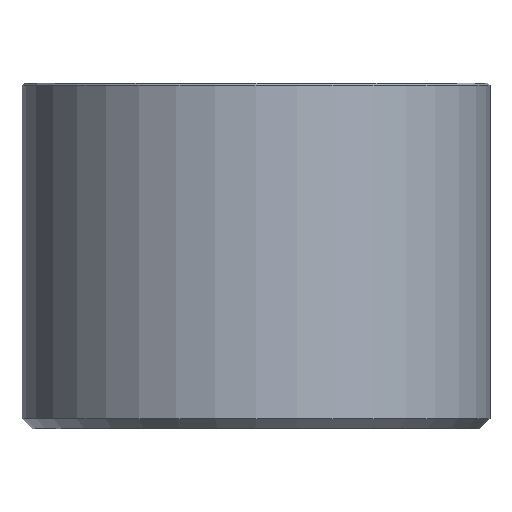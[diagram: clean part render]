
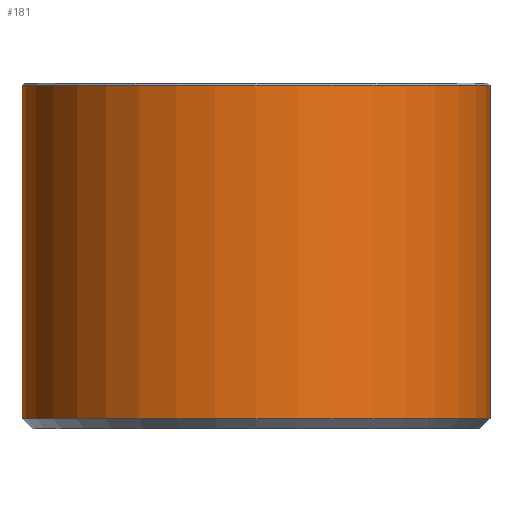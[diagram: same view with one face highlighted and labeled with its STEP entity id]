
A CAD part, front view. The second image highlights one B-rep face of the part: STEP entity #181.
In plain terms, the highlighted cylindrical face has radius 11.5 mm (diameter 23 mm), a full revolution.
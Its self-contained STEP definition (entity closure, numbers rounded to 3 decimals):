
#146=FACE_BOUND('',#292,.T.);
#147=FACE_BOUND('',#293,.T.);
#181=ADVANCED_FACE('',(#146,#147),#229,.T.);
#229=CYLINDRICAL_SURFACE('',#1254,11.5);
#292=EDGE_LOOP('',(#454));
#293=EDGE_LOOP('',(#455));
#454=ORIENTED_EDGE('',*,*,#775,.T.);
#455=ORIENTED_EDGE('',*,*,#776,.T.);
#672=VERTEX_POINT('',#1968);
#673=VERTEX_POINT('',#1970);
#775=EDGE_CURVE('',#672,#672,#1009,.T.);
#776=EDGE_CURVE('',#673,#673,#1010,.T.);
#1009=CIRCLE('',#1252,11.5);
#1010=CIRCLE('',#1253,11.5);
#1252=AXIS2_PLACEMENT_3D('',#1967,#1501,#1502);
#1253=AXIS2_PLACEMENT_3D('',#1969,#1503,#1504);
#1254=AXIS2_PLACEMENT_3D('',#1971,#1505,#1506);
#1501=DIRECTION('',(0.,0.,1.));
#1502=DIRECTION('',(-1.,0.,0.));
#1503=DIRECTION('',(0.,0.,-1.));
#1504=DIRECTION('',(1.,0.,0.));
#1505=DIRECTION('',(0.,0.,1.));
#1506=DIRECTION('',(1.,0.,0.));
#1967=CARTESIAN_POINT('',(0.,0.,0.5));
#1968=CARTESIAN_POINT('',(-11.5,0.,0.5));
#1969=CARTESIAN_POINT('',(0.,0.,16.9));
#1970=CARTESIAN_POINT('',(11.5,0.,16.9));
#1971=CARTESIAN_POINT('',(0.,0.,0.));
